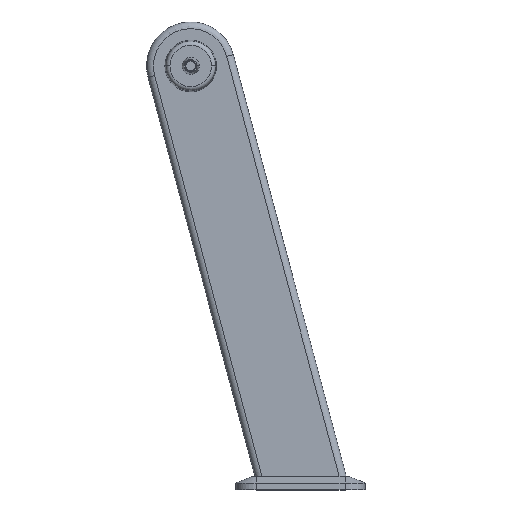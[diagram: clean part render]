
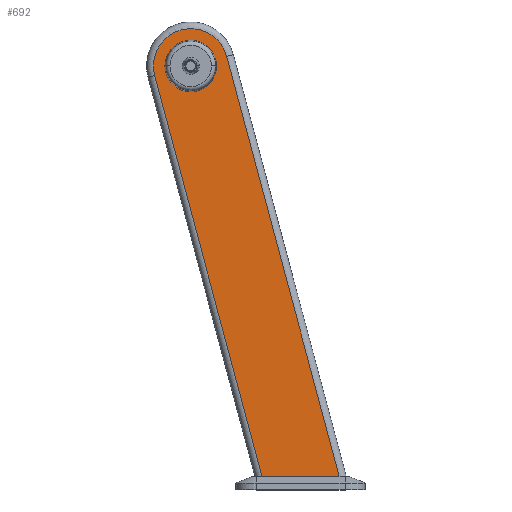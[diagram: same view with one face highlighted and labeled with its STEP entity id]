
A CAD part, top view. The second image highlights one B-rep face of the part: STEP entity #692.
In plain terms, the highlighted planar face has unit normal (0, 0, 1).
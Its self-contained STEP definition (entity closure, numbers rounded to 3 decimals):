
#59 = VERTEX_POINT ( 'NONE', #2875 ) ;
#100 = EDGE_CURVE ( 'NONE', #165, #252, #2885, .T. ) ;
#127 = AXIS2_PLACEMENT_3D ( 'NONE', #1694, #208, #1958 ) ;
#165 = VERTEX_POINT ( 'NONE', #719 ) ;
#177 = AXIS2_PLACEMENT_3D ( 'NONE', #2208, #2451, #967 ) ;
#208 = DIRECTION ( 'NONE',  ( 0., 0., 1. ) ) ;
#252 = VERTEX_POINT ( 'NONE', #2440 ) ;
#256 = ORIENTED_EDGE ( 'NONE', *, *, #1535, .F. ) ;
#312 = LINE ( 'NONE', #573, #978 ) ;
#395 = CARTESIAN_POINT ( 'NONE',  ( -53.126, -14.235, 31.25 ) ) ;
#461 = PLANE ( 'NONE',  #177 ) ;
#474 = AXIS2_PLACEMENT_3D ( 'NONE', #2788, #1293, #3040 ) ;
#505 = CARTESIAN_POINT ( 'NONE',  ( 53.126, 14.235, 31.25 ) ) ;
#573 = CARTESIAN_POINT ( 'NONE',  ( 109.835, -622.412, 31.25 ) ) ;
#586 = CIRCLE ( 'NONE', #474, 38. ) ;
#607 = ORIENTED_EDGE ( 'NONE', *, *, #100, .T. ) ;
#692 = ADVANCED_FACE ( 'NONE', ( #1339, #2001 ), #461, .T. ) ;
#719 = CARTESIAN_POINT ( 'NONE',  ( 105.169, -605., 31.25 ) ) ;
#855 = CIRCLE ( 'NONE', #127, 55. ) ;
#937 = LINE ( 'NONE', #505, #1444 ) ;
#967 = DIRECTION ( 'NONE',  ( 1., 0., 0. ) ) ;
#978 = VECTOR ( 'NONE', #2071, 1000. ) ;
#979 = ORIENTED_EDGE ( 'NONE', *, *, #2104, .F. ) ;
#1014 = DIRECTION ( 'NONE',  ( 0., 0., 1. ) ) ;
#1056 = CIRCLE ( 'NONE', #2842, 38. ) ;
#1197 = ORIENTED_EDGE ( 'NONE', *, *, #2726, .T. ) ;
#1261 = ORIENTED_EDGE ( 'NONE', *, *, #1494, .T. ) ;
#1293 = DIRECTION ( 'NONE',  ( 0., 0., 1. ) ) ;
#1294 = CARTESIAN_POINT ( 'NONE',  ( 53.126, 14.235, 31.25 ) ) ;
#1339 = FACE_OUTER_BOUND ( 'NONE', #3163, .T. ) ;
#1345 = EDGE_CURVE ( 'NONE', #252, #1417, #937, .T. ) ;
#1387 = DIRECTION ( 'NONE',  ( 1., 0., 0. ) ) ;
#1417 = VERTEX_POINT ( 'NONE', #1294 ) ;
#1444 = VECTOR ( 'NONE', #3007, 1000. ) ;
#1494 = EDGE_CURVE ( 'NONE', #2589, #165, #312, .T. ) ;
#1535 = EDGE_CURVE ( 'NONE', #3134, #59, #1056, .T. ) ;
#1557 = VECTOR ( 'NONE', #1387, 1000. ) ;
#1607 = EDGE_LOOP ( 'NONE', ( #256, #979 ) ) ;
#1694 = CARTESIAN_POINT ( 'NONE',  ( 0., 0., 31.25 ) ) ;
#1958 = DIRECTION ( 'NONE',  ( 1., 0., 0. ) ) ;
#2001 = FACE_BOUND ( 'NONE', #1607, .T. ) ;
#2071 = DIRECTION ( 'NONE',  ( 0.259, -0.966, 0. ) ) ;
#2104 = EDGE_CURVE ( 'NONE', #59, #3134, #586, .T. ) ;
#2208 = CARTESIAN_POINT ( 'NONE',  ( 0., 0., 31.25 ) ) ;
#2223 = CARTESIAN_POINT ( 'NONE',  ( 38., 0., 31.25 ) ) ;
#2278 = ORIENTED_EDGE ( 'NONE', *, *, #1345, .T. ) ;
#2440 = CARTESIAN_POINT ( 'NONE',  ( 219.049, -605., 31.25 ) ) ;
#2451 = DIRECTION ( 'NONE',  ( 0., 0., 1. ) ) ;
#2504 = CARTESIAN_POINT ( 'NONE',  ( 0., 0., 31.25 ) ) ;
#2589 = VERTEX_POINT ( 'NONE', #395 ) ;
#2726 = EDGE_CURVE ( 'NONE', #1417, #2589, #855, .T. ) ;
#2762 = DIRECTION ( 'NONE',  ( 1., 0., 0. ) ) ;
#2788 = CARTESIAN_POINT ( 'NONE',  ( 0., 0., 31.25 ) ) ;
#2842 = AXIS2_PLACEMENT_3D ( 'NONE', #2504, #1014, #2762 ) ;
#2875 = CARTESIAN_POINT ( 'NONE',  ( -38., 0., 31.25 ) ) ;
#2885 = LINE ( 'NONE', #3142, #1557 ) ;
#3007 = DIRECTION ( 'NONE',  ( -0.259, 0.966, 0. ) ) ;
#3040 = DIRECTION ( 'NONE',  ( 1., 0., 0. ) ) ;
#3134 = VERTEX_POINT ( 'NONE', #2223 ) ;
#3142 = CARTESIAN_POINT ( 'NONE',  ( 0., -605., 31.25 ) ) ;
#3163 = EDGE_LOOP ( 'NONE', ( #2278, #1197, #1261, #607 ) ) ;
